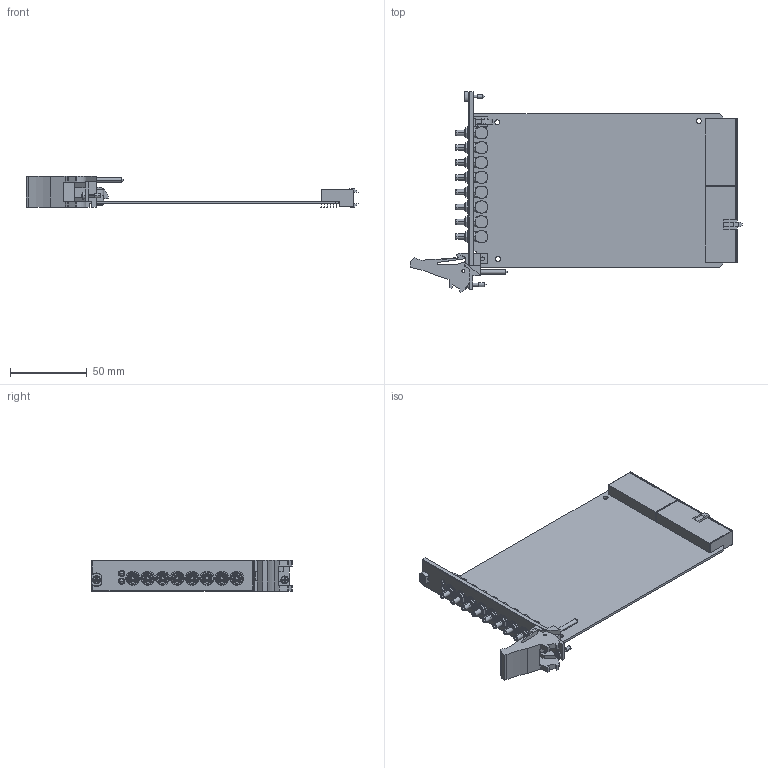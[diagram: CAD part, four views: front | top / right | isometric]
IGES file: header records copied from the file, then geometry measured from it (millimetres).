
Start section:  PTC IGES file: cu_cca_pxi_6652.igs
Global section: file name: cu_cca_pxi_6652.igs; native system: Pro/ENGINEER by Parametric Technology Corporation; preprocessor: 2006080; author: jpfaff; organization: Unknown; date: 090604.134716; units: inch
Bounding box: 216.08 x 130.5 x 20.19 mm (x, y, z)
Surface area: 54587.6 mm2 (no closed solid volume)
Topology: 0 solids, 0 shells, 1225 faces, 6294 edges, 6286 vertices
Faces by surface type: bspline 765, revolution 460
